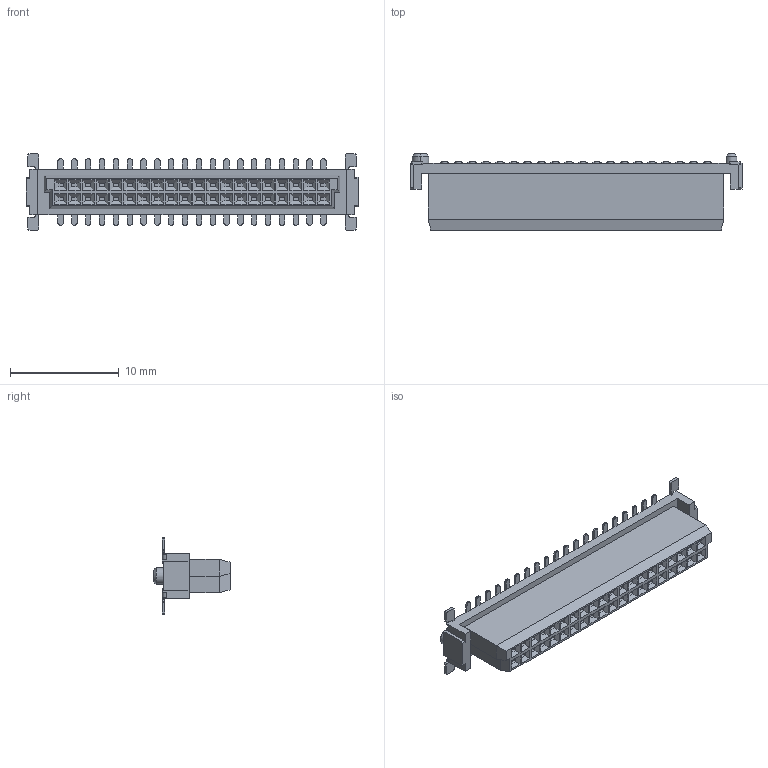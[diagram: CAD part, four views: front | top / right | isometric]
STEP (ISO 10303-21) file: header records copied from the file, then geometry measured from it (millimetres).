
FILE_DESCRIPTION (( 'STEP AP214' ), '1' );
FILE_NAME ('2321-A40FCxxDP1T-P.STEP', '2024-07-10T10:29:19', ( '' ), ( '' ), 'SwSTEP 2.0', 'SolidWorks 2011', '' );
FILE_SCHEMA (( 'AUTOMOTIVE_DESIGN' ));
Length unit declared in the file: millimetre
Products named in the file (1): 2321-A40FCxxDP1T-P
Bounding box: 30.48 x 7 x 7 mm (x, y, z)
Volume: 506 mm3; surface area: 830.6 mm2
Topology: 1 solids, 3 shells, 1288 faces, 3568 edges, 2291 vertices
Faces by surface type: plane 886, cylinder 397, cone 5
Entity records: 40921 total; most frequent: CARTESIAN_POINT 7172, ORIENTED_EDGE 7136, DIRECTION 6981, EDGE_CURVE 3568, LINE 2717, VECTOR 2717, VERTEX_POINT 2291, AXIS2_PLACEMENT_3D 2132
